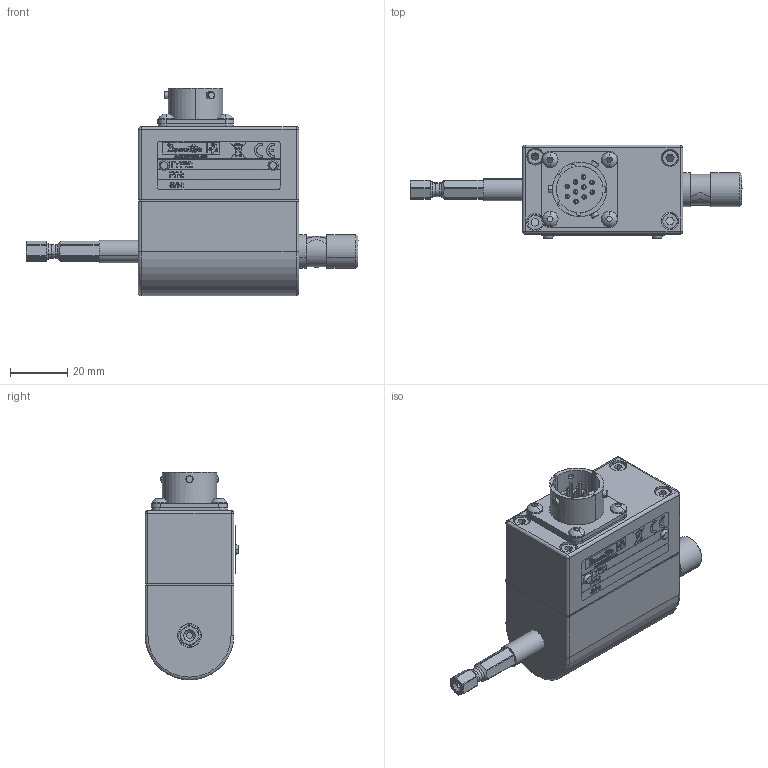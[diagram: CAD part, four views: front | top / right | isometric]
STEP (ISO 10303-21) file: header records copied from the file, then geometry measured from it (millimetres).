
FILE_DESCRIPTION((''),'2;1');
FILE_NAME('2090_SW0002','2014-03-21T',('itdmaca'),(''),'PRO/ENGINEER BY PARAMETRIC TECHNOLOGY CORPORATION, 2012420','PRO/ENGINEER BY PARAMETRIC TECHNOLOGY CORPORATION, 2012420','');
FILE_SCHEMA(('CONFIG_CONTROL_DESIGN','GEOMETRIC_VALIDATION_PROPERTIES_MIM'));
Length unit declared in the file: millimetre
Products named in the file (1): 2090_SW0002
Bounding box: 115.8 x 32.75 x 72.52 mm (x, y, z)
Surface area: 18447.7 mm2 (no closed solid volume)
Topology: 0 solids, 46 shells, 316 faces, 1851 edges, 1563 vertices
Faces by surface type: plane 146, cylinder 93, sphere 38, cone 24, torus 14, extrusion 1
Entity records: 23609 total; most frequent: CARTESIAN_POINT 7366, DIRECTION 2681, ORIENTED_EDGE 2539, EDGE_CURVE 1817, VERTEX_POINT 1562, VECTOR 1129, LINE 1128, AXIS2_PLACEMENT_3D 776
